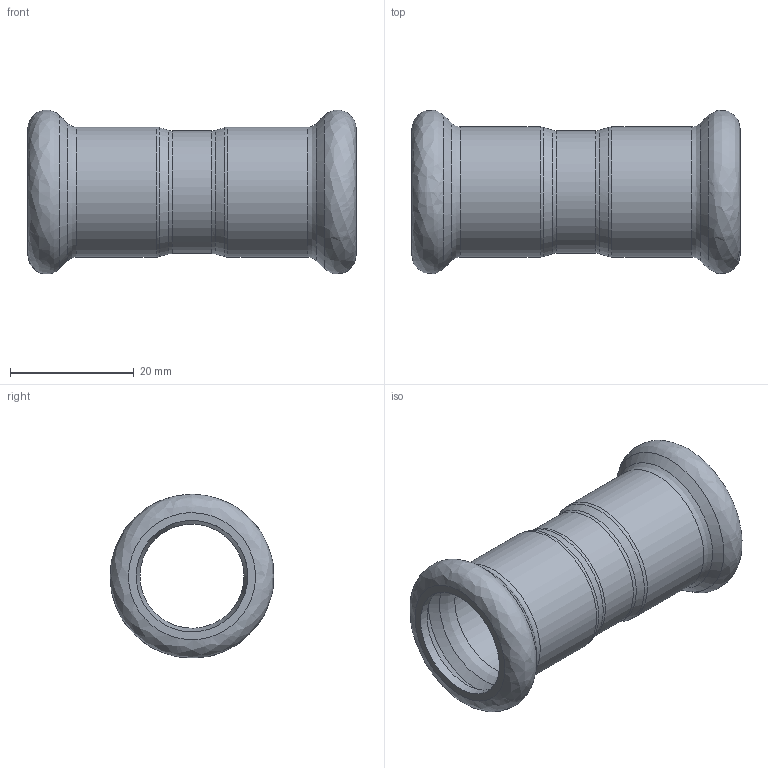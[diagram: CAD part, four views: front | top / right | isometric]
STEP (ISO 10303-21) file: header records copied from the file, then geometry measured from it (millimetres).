
FILE_DESCRIPTION(('FreeCAD Model'),'2;1');
FILE_NAME('Open CASCADE Shape Model','2025-10-20T15:02:41',('Author'),( ''),'Open CASCADE STEP processor 7.8','FreeCAD','Unknown');
FILE_SCHEMA(('AUTOMOTIVE_DESIGN { 1 0 10303 214 1 1 1 1 }'));
Length unit declared in the file: millimetre
Products named in the file (1): Solido1
Bounding box: 53 x 26.38 x 26.44 mm (x, y, z)
Volume: 5592.1 mm3; surface area: 7655.5 mm2
Topology: 1 solids, 1 shells, 32 faces, 114 edges, 86 vertices
Faces by surface type: bspline 32
Entity records: 1794 total; most frequent: CARTESIAN_POINT 1205, ORIENTED_EDGE 228, EDGE_CURVE 114, VERTEX_POINT 86, FACE_BOUND 36, EDGE_LOOP 36, ADVANCED_FACE 32, B_SPLINE_CURVE_WITH_KNOTS 16
